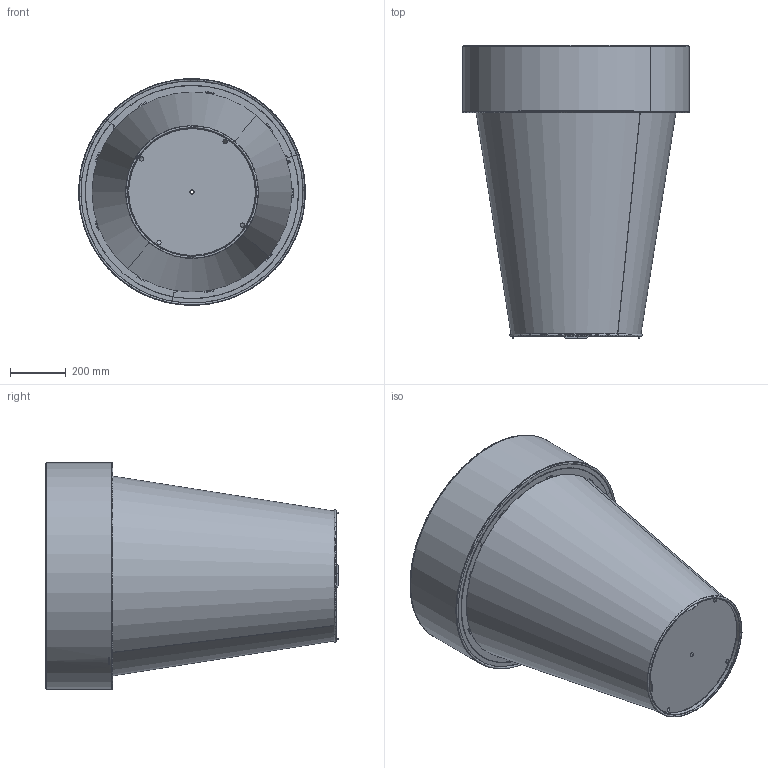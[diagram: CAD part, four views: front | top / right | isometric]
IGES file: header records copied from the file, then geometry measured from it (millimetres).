
Start section: SolidWorks IGES file using analytic representation for surfaces
Global section: file name: \\utenti\Dati Utenti\Tecnico\DC\2D - 3D per sito\3D\DeCastelli-3D-Omega XL 104.igs; native system: SolidWorks 2022; preprocessor: SolidWorks 2022; author: Simonep; date: 240807.172535; units: millimetre
Bounding box: 812 x 1049.44 x 812 mm (x, y, z)
Surface area: 5333418.8 mm2 (no closed solid volume)
Topology: 0 solids, 0 shells, 184 faces, 4024 edges, 4024 vertices
Faces by surface type: bspline 101, revolution 83
